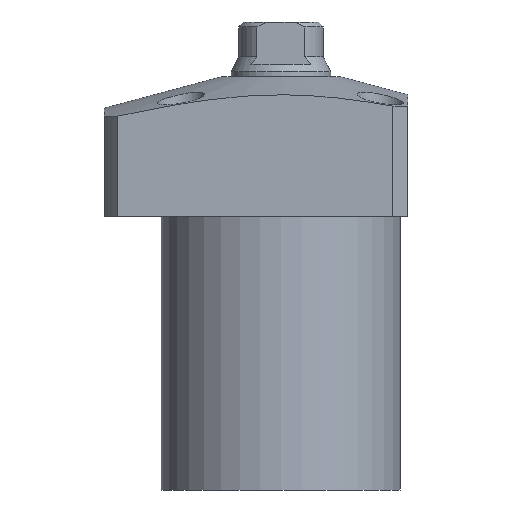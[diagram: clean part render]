
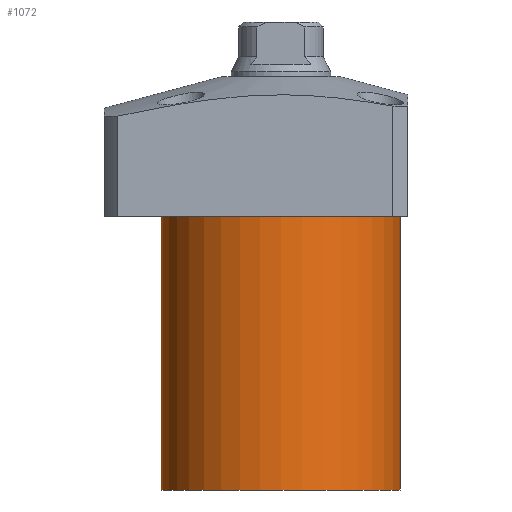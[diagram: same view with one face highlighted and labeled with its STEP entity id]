
A CAD part, front view. The second image highlights one B-rep face of the part: STEP entity #1072.
In plain terms, the highlighted cylindrical face has radius 24 mm (diameter 48 mm), a partial arc.
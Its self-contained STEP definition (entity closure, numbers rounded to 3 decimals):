
#78 = CARTESIAN_POINT ( 'NONE',  ( -24., 0., -69. ) ) ;
#110 = DIRECTION ( 'NONE',  ( -1., 0., 0. ) ) ;
#141 = CARTESIAN_POINT ( 'NONE',  ( 24., 0., -69. ) ) ;
#212 = DIRECTION ( 'NONE',  ( 0., 0., 1. ) ) ;
#227 = AXIS2_PLACEMENT_3D ( 'NONE', #683, #2399, #110 ) ;
#232 = CARTESIAN_POINT ( 'NONE',  ( 0., 0., -69. ) ) ;
#274 = CARTESIAN_POINT ( 'NONE',  ( 24., 0., -14. ) ) ;
#303 = EDGE_CURVE ( 'NONE', #510, #2297, #2282, .T. ) ;
#321 = VECTOR ( 'NONE', #505, 1000. ) ;
#354 = CARTESIAN_POINT ( 'NONE',  ( -24., 0., -14. ) ) ;
#404 = DIRECTION ( 'NONE',  ( 1., 0., 0. ) ) ;
#505 = DIRECTION ( 'NONE',  ( 0., 0., 1. ) ) ;
#510 = VERTEX_POINT ( 'NONE', #274 ) ;
#580 = DIRECTION ( 'NONE',  ( 0., 0., 1. ) ) ;
#661 = EDGE_LOOP ( 'NONE', ( #1709, #1549, #2409, #1673 ) ) ;
#683 = CARTESIAN_POINT ( 'NONE',  ( 0., 0., -69. ) ) ;
#692 = AXIS2_PLACEMENT_3D ( 'NONE', #1969, #1254, #1039 ) ;
#718 = CYLINDRICAL_SURFACE ( 'NONE', #1511, 24. ) ;
#787 = VERTEX_POINT ( 'NONE', #78 ) ;
#817 = LINE ( 'NONE', #873, #321 ) ;
#858 = FACE_OUTER_BOUND ( 'NONE', #661, .T. ) ;
#873 = CARTESIAN_POINT ( 'NONE',  ( -24., 0., -69. ) ) ;
#945 = EDGE_CURVE ( 'NONE', #787, #2297, #817, .T. ) ;
#963 = EDGE_CURVE ( 'NONE', #1476, #787, #1387, .T. ) ;
#1039 = DIRECTION ( 'NONE',  ( 1., 0., 0. ) ) ;
#1072 = ADVANCED_FACE ( 'NONE', ( #858 ), #718, .T. ) ;
#1192 = VECTOR ( 'NONE', #212, 1000. ) ;
#1254 = DIRECTION ( 'NONE',  ( 0., 0., -1. ) ) ;
#1387 = CIRCLE ( 'NONE', #227, 24. ) ;
#1441 = EDGE_CURVE ( 'NONE', #1476, #510, #2268, .T. ) ;
#1476 = VERTEX_POINT ( 'NONE', #1505 ) ;
#1505 = CARTESIAN_POINT ( 'NONE',  ( 24., 0., -69. ) ) ;
#1511 = AXIS2_PLACEMENT_3D ( 'NONE', #232, #580, #404 ) ;
#1549 = ORIENTED_EDGE ( 'NONE', *, *, #963, .F. ) ;
#1673 = ORIENTED_EDGE ( 'NONE', *, *, #303, .T. ) ;
#1709 = ORIENTED_EDGE ( 'NONE', *, *, #945, .F. ) ;
#1969 = CARTESIAN_POINT ( 'NONE',  ( 0., 0., -14. ) ) ;
#2268 = LINE ( 'NONE', #141, #1192 ) ;
#2282 = CIRCLE ( 'NONE', #692, 24. ) ;
#2297 = VERTEX_POINT ( 'NONE', #354 ) ;
#2399 = DIRECTION ( 'NONE',  ( 0., 0., -1. ) ) ;
#2409 = ORIENTED_EDGE ( 'NONE', *, *, #1441, .T. ) ;
